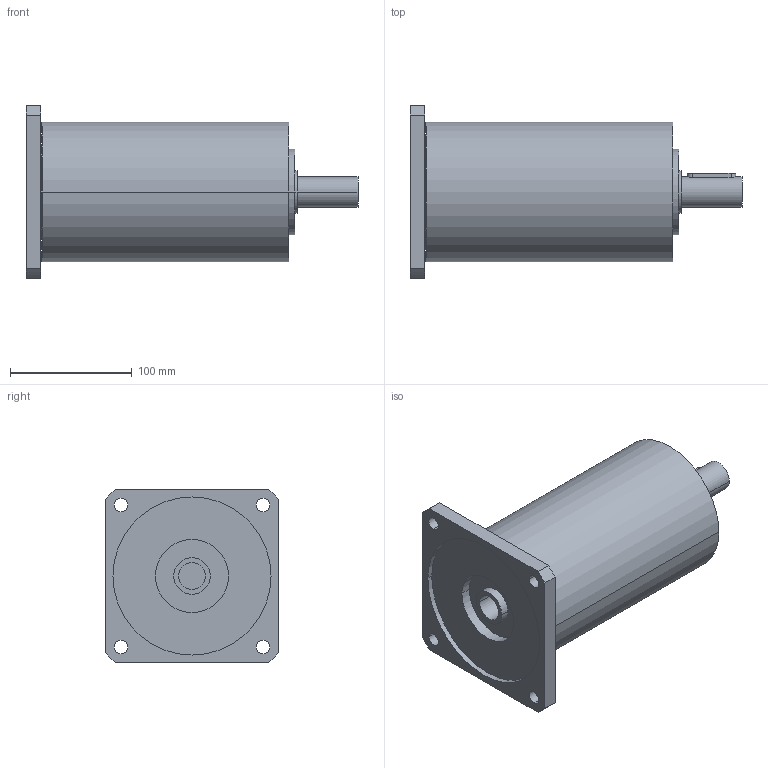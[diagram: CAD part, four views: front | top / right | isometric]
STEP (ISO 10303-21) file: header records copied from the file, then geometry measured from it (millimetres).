
FILE_DESCRIPTION(('CoCreate Modeling STEP Export'),'2;1');
FILE_NAME('GPR125_ig-48-64-80-100-140-196-245-343_25_B14_22_P08.stp','2014-08-26T14:22:09',(''),(''),'CoCreate Modeling STEP processor for AP214 (Solid Model)','CoCreate Modeling 16.00C 25-Feb-2009 (C) Parametric Technology GmbH','');
FILE_SCHEMA(('AUTOMOTIVE_DESIGN { 1 0 10303 214 1 1 1 1 }'));
Length unit declared in the file: millimetre
Products named in the file (2): GPR125_ig-48-64-80-100-140-196-245-343_25_B14_22_P08
Assembly tree (1 placements, depth 2):
  GPR125_ig-48-64-80-100-140-196-245-343_25_B14_22_P08
    GPR125_ig-48-64-80-100-140-196-245-343_25_B14_22_P08
Bounding box: 273 x 142 x 142 mm (x, y, z)
Volume: 2289761.2 mm3; surface area: 150330.2 mm2
Topology: 1 solids, 1 shells, 68 faces, 186 edges, 132 vertices
Faces by surface type: cylinder 42, plane 22, cone 4
Entity records: 1918 total; most frequent: ORIENTED_EDGE 368, CARTESIAN_POINT 361, DIRECTION 258, EDGE_CURVE 184, VERTEX_POINT 132, AXIS2_PLACEMENT_3D 97, EDGE_LOOP 90, FACE_OUTER_BOUND 68
